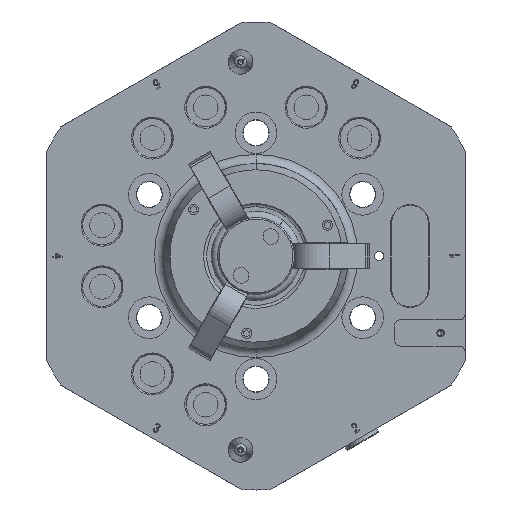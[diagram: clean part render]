
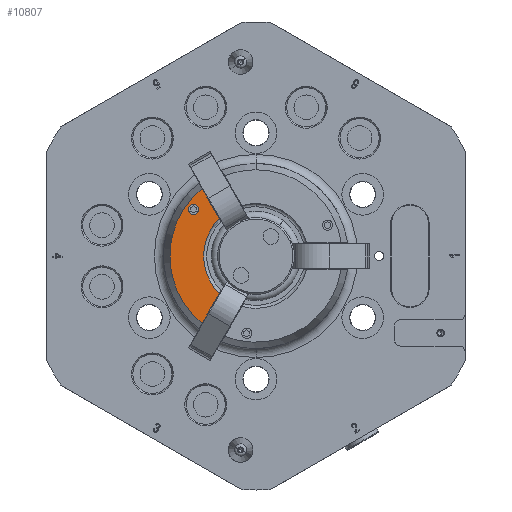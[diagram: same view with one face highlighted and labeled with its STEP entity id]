
A CAD part, front view. The second image highlights one B-rep face of the part: STEP entity #10807.
In plain terms, the highlighted planar face has unit normal (0, -1, 0).
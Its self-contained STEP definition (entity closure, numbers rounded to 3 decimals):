
#562 = PLANE ( 'NONE',  #40398 ) ;
#2611 = CARTESIAN_POINT ( 'NONE',  ( -20.288, -33.5, 15.133 ) ) ;
#4505 = EDGE_CURVE ( 'NONE', #46770, #18388, #26707, .T. ) ;
#6390 = CIRCLE ( 'NONE', #46748, 17. ) ;
#7403 = DIRECTION ( 'NONE',  ( -0.5, 0., -0.866 ) ) ;
#7967 = ORIENTED_EDGE ( 'NONE', *, *, #12857, .T. ) ;
#9539 = VERTEX_POINT ( 'NONE', #28397 ) ;
#10595 = DIRECTION ( 'NONE',  ( 0., 0., -1. ) ) ;
#10807 = ADVANCED_FACE ( 'NONE', ( #30645, #50411 ), #562, .T. ) ;
#12495 = EDGE_CURVE ( 'NONE', #17562, #9539, #62748, .T. ) ;
#12857 = EDGE_CURVE ( 'NONE', #27562, #9539, #54003, .T. ) ;
#16303 = EDGE_LOOP ( 'NONE', ( #58814, #7967, #35609, #21198 ) ) ;
#16416 = CARTESIAN_POINT ( 'NONE',  ( 0., -33.5, 0. ) ) ;
#17562 = VERTEX_POINT ( 'NONE', #20580 ) ;
#18388 = VERTEX_POINT ( 'NONE', #60233 ) ;
#20580 = CARTESIAN_POINT ( 'NONE',  ( -11.911, -33.5, -12.13 ) ) ;
#21198 = ORIENTED_EDGE ( 'NONE', *, *, #58619, .F. ) ;
#21503 = DIRECTION ( 'NONE',  ( 0.5, 0., -0.866 ) ) ;
#25098 = CARTESIAN_POINT ( 'NONE',  ( -11.911, -33.5, 12.13 ) ) ;
#26047 = LINE ( 'NONE', #60386, #44054 ) ;
#26707 = CIRCLE ( 'NONE', #62920, 1.65 ) ;
#27324 = EDGE_CURVE ( 'NONE', #27562, #42895, #26047, .T. ) ;
#27562 = VERTEX_POINT ( 'NONE', #28287 ) ;
#28287 = CARTESIAN_POINT ( 'NONE',  ( -17.517, -33.5, 21.841 ) ) ;
#28397 = CARTESIAN_POINT ( 'NONE',  ( -17.517, -33.5, -21.841 ) ) ;
#28413 = CARTESIAN_POINT ( 'NONE',  ( -11.911, -33.5, -12.13 ) ) ;
#30006 = CARTESIAN_POINT ( 'NONE',  ( 0., -33.5, 0. ) ) ;
#30309 = CIRCLE ( 'NONE', #52040, 1.65 ) ;
#30645 = FACE_BOUND ( 'NONE', #57413, .T. ) ;
#31608 = DIRECTION ( 'NONE',  ( 0., 0., -1. ) ) ;
#33419 = ORIENTED_EDGE ( 'NONE', *, *, #60392, .F. ) ;
#33813 = CARTESIAN_POINT ( 'NONE',  ( -20.288, -33.5, 15.133 ) ) ;
#35609 = ORIENTED_EDGE ( 'NONE', *, *, #12495, .F. ) ;
#35956 = DIRECTION ( 'NONE',  ( 0., -1., 0. ) ) ;
#40398 = AXIS2_PLACEMENT_3D ( 'NONE', #30006, #59470, #10595 ) ;
#41348 = DIRECTION ( 'NONE',  ( 0., -1., 0. ) ) ;
#42115 = DIRECTION ( 'NONE',  ( 0., -1., 0. ) ) ;
#42895 = VERTEX_POINT ( 'NONE', #25098 ) ;
#44054 = VECTOR ( 'NONE', #21503, 1000. ) ;
#46003 = ORIENTED_EDGE ( 'NONE', *, *, #4505, .F. ) ;
#46618 = CARTESIAN_POINT ( 'NONE',  ( 0., -33.5, 0. ) ) ;
#46748 = AXIS2_PLACEMENT_3D ( 'NONE', #46618, #35956, #56315 ) ;
#46770 = VERTEX_POINT ( 'NONE', #47604 ) ;
#47604 = CARTESIAN_POINT ( 'NONE',  ( -20.288, -33.5, 16.783 ) ) ;
#49329 = DIRECTION ( 'NONE',  ( 0., 0., -1. ) ) ;
#50411 = FACE_OUTER_BOUND ( 'NONE', #16303, .T. ) ;
#50881 = VECTOR ( 'NONE', #7403, 1000. ) ;
#52040 = AXIS2_PLACEMENT_3D ( 'NONE', #33813, #54181, #49329 ) ;
#52730 = AXIS2_PLACEMENT_3D ( 'NONE', #16416, #41348, #31608 ) ;
#54003 = CIRCLE ( 'NONE', #52730, 27.998 ) ;
#54181 = DIRECTION ( 'NONE',  ( 0., -1., 0. ) ) ;
#56315 = DIRECTION ( 'NONE',  ( 0., 0., -1. ) ) ;
#57413 = EDGE_LOOP ( 'NONE', ( #33419, #46003 ) ) ;
#58619 = EDGE_CURVE ( 'NONE', #42895, #17562, #6390, .T. ) ;
#58814 = ORIENTED_EDGE ( 'NONE', *, *, #27324, .F. ) ;
#59470 = DIRECTION ( 'NONE',  ( 0., -1., 0. ) ) ;
#60233 = CARTESIAN_POINT ( 'NONE',  ( -20.288, -33.5, 13.483 ) ) ;
#60386 = CARTESIAN_POINT ( 'NONE',  ( -11.911, -33.5, 12.13 ) ) ;
#60392 = EDGE_CURVE ( 'NONE', #18388, #46770, #30309, .T. ) ;
#62748 = LINE ( 'NONE', #28413, #50881 ) ;
#62920 = AXIS2_PLACEMENT_3D ( 'NONE', #2611, #42115, #63426 ) ;
#63426 = DIRECTION ( 'NONE',  ( 0., 0., -1. ) ) ;
